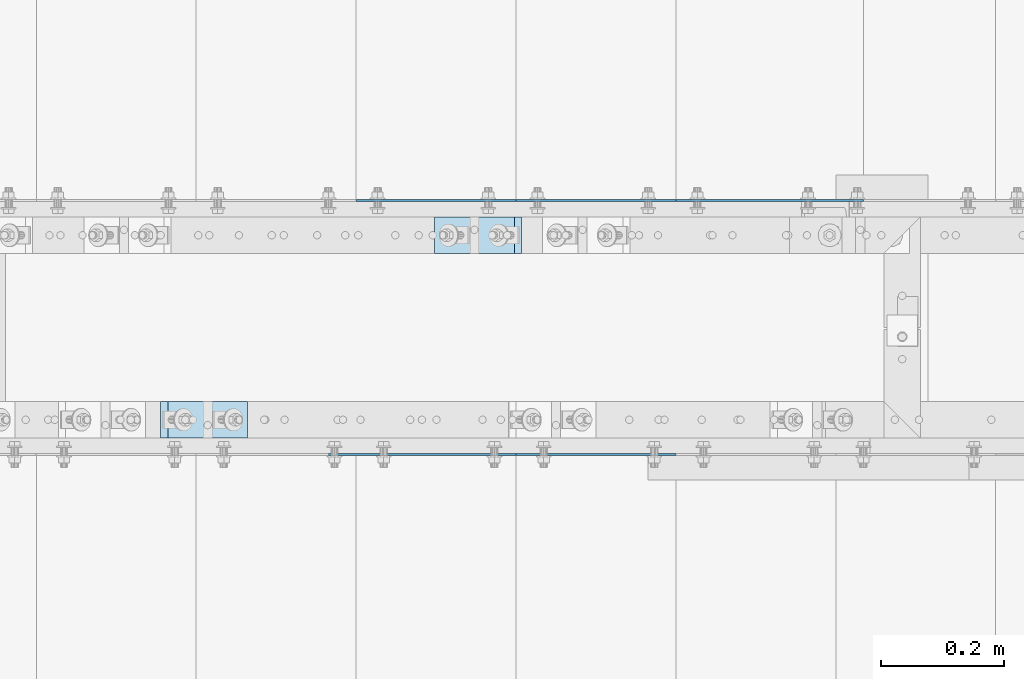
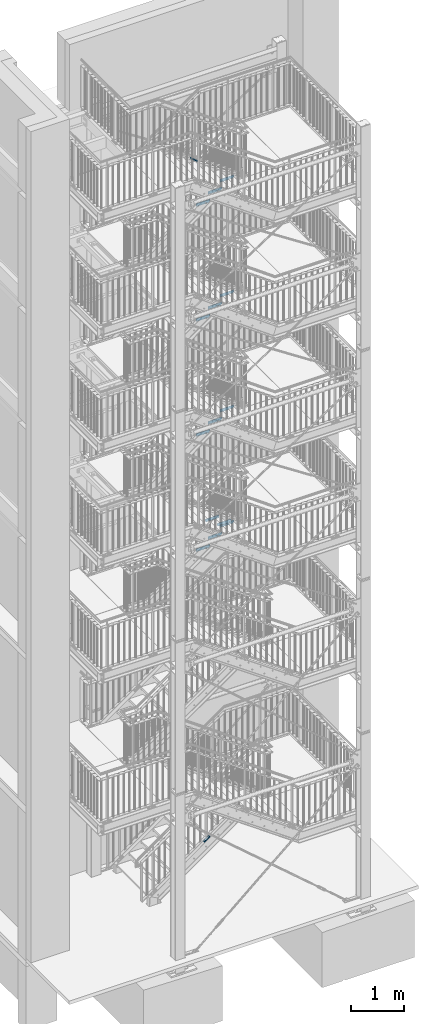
# One storey, part 176 of 831: 16 plates, 32 openings.
"""IFC2X3 building model written with IfcOpenShell, lengths in millimetres."""

from ifc_helpers import new_model, entity, si_unit, converted_unit, point, frame, frame_2d, origin, origin_with_axes, origin_2d_with_axis, place, context, project, spatial, polyline, circle_curve, line_curve, trimmed, segment, composite_curve, circle, outline, extrude, material, layer, layer_set, element, save


model = new_model("IFC2X3")

# Units and contexts
model_context = context("Model", 3, precision=1e-09, world=origin_with_axes())
ifc_project = project(units=[si_unit("LENGTHUNIT", "METRE", prefix="MILLI"), si_unit("AREAUNIT", "SQUARE_METRE"), si_unit("VOLUMEUNIT", "CUBIC_METRE"), converted_unit("PLANEANGLEUNIT", "DEGREE", entity("IfcPlaneAngleMeasure", 0.01745329), si_unit("PLANEANGLEUNIT", "RADIAN"), dimensions=[0, 0, 0, 0, 0, 0, 0])], contexts=[model_context])

# Site, building, storey
site_placement = place(None, origin_with_axes())
site = spatial("IfcSite", under=ifc_project, at=site_placement, Name="Site", CompositionType="ELEMENT")
building_placement = place(site_placement, origin_with_axes())
building = spatial("IfcBuilding", under=site, at=building_placement, Name="Struktur 1", CompositionType="ELEMENT")
storey_placement = place(building_placement, origin_with_axes())
storey = spatial("IfcBuildingStorey", under=building, at=storey_placement, Name="Default Storey", CompositionType="ELEMENT", Elevation=0.0)

# Plate, openings
ifc_material = material(Name="S235JR")
ifc_layer_1 = layer(ifc_material, 20.0)
ifc_layer_set_1 = layer_set([ifc_layer_1], Name="S235JR")
plate_1_placement = place(None, frame((6545.888810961, 6121.736971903, 1487.163948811), z_axis=(-0.579973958, 0.0, 0.814635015), x_axis=(-0.814635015, 0.0, -0.579973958)))
plate_1 = element("IfcPlate", 1, at=plate_1_placement, inside=storey, material=ifc_layer_set_1, Name="Plate#501", ObjectType="Plate#501", context=model_context, shape_type="SweptSolid", body=[
    extrude(outline(polyline([(0.0, 0.0), (160.0, 0.0), (160.0, 60.0), (0.0, 60.0), (0.0, 0.0)])), origin_with_axes(), (0.0, 0.0, 1.0), 20.0),
])
opening_1_placement = place(plate_1_placement, frame((38.0, 37.001, 20.5), z_axis=(0.0, 0.0, 1.0), x_axis=(-1.0, 0.0, 0.0)))
element("IfcOpeningElement", 2, at=opening_1_placement, cuts=plate_1, ObjectType="Opening", context=model_context, shape_type="SweptSolid", body=[
    extrude(outline(composite_curve([segment(trimmed(line_curve((0.0, 0.0), (1.0, 0.0), 16.0), [point((0.0, 0.0))], [point((16.0, 0.0))], True, "CARTESIAN"), True, "CONTINUOUS"), segment(trimmed(circle_curve(frame_2d((16.0, 7.001), x_axis=(1.0, 0.0)), 7.001), [point((16.0, 0.0))], [point((16.0, 14.002))], True, "CARTESIAN"), True, "CONTINUOUS"), segment(trimmed(line_curve((16.0, 14.002), (-1.0, 0.0), 16.0), [point((16.0, 14.002))], [point((0.0, 14.002))], True, "CARTESIAN"), True, "CONTINUOUS"), segment(trimmed(circle_curve(frame_2d((0.0, 7.001), x_axis=(1.0, 0.0)), 7.001), [point((0.0, 14.002))], [point((0.0, 0.0))], True, "CARTESIAN"), True, "CONTINUOUS")], self_intersect=False)), origin(), (0.0, 0.0, -1.0), 21.0),
])
opening_2_placement = place(plate_1_placement, frame((138.0, 37.001, 20.5), z_axis=(0.0, 0.0, 1.0), x_axis=(-1.0, 0.0, 0.0)))
element("IfcOpeningElement", 3, at=opening_2_placement, cuts=plate_1, ObjectType="Opening", context=model_context, shape_type="SweptSolid", body=[
    extrude(outline(composite_curve([segment(trimmed(line_curve((0.0, 0.0), (1.0, 0.0), 16.0), [point((0.0, 0.0))], [point((16.0, 0.0))], True, "CARTESIAN"), True, "CONTINUOUS"), segment(trimmed(circle_curve(frame_2d((16.0, 7.001), x_axis=(1.0, 0.0)), 7.001), [point((16.0, 0.0))], [point((16.0, 14.002))], True, "CARTESIAN"), True, "CONTINUOUS"), segment(trimmed(line_curve((16.0, 14.002), (-1.0, 0.0), 16.0), [point((16.0, 14.002))], [point((0.0, 14.002))], True, "CARTESIAN"), True, "CONTINUOUS"), segment(trimmed(circle_curve(frame_2d((0.0, 7.001), x_axis=(1.0, 0.0)), 7.001), [point((0.0, 14.002))], [point((0.0, 0.0))], True, "CARTESIAN"), True, "CONTINUOUS")], self_intersect=False)), origin(), (0.0, 0.0, -1.0), 21.0),
])

ifc_layer_2 = layer(ifc_material, 3.0)
ifc_layer_set_2 = layer_set([ifc_layer_2], Name="S235JR")
plate_2_placement = place(None, frame((6796.713402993, 5733.736971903, 8864.0), z_axis=(0.0, 1.0, 0.0), x_axis=(0.0, 0.0, -1.0)))
plate_2 = element("IfcPlate", 4, at=plate_2_placement, inside=storey, material=ifc_layer_set_2, Name="Grate_Step#3", ObjectType="Grate_Step#3", context=model_context, shape_type="SweptSolid", body=[
    extrude(outline(polyline([(0.0, 0.0), (70.0, 0.0), (70.0, 275.0), (40.0, 305.0), (0.0, 305.0), (0.0, 0.0)])), origin_with_axes(), (0.0, 0.0, 1.0), 3.0),
])
opening_3_placement = place(plate_2_placement, frame((55.0, 35.0, -0.5), z_axis=(0.0, 0.0, 1.0), x_axis=(0.0, 1.0, 0.0)))
element("IfcOpeningElement", 5, at=opening_3_placement, cuts=plate_2, ObjectType="Opening", context=model_context, shape_type="SweptSolid", body=[
    extrude(circle(Radius=7.001, at=origin_2d_with_axis()), origin(), (0.0, 0.0, 1.0), 4.0),
])
opening_4_placement = place(plate_2_placement, frame((55.0, 215.0, -0.5), z_axis=(0.0, 0.0, 1.0), x_axis=(0.0, 1.0, 0.0)))
element("IfcOpeningElement", 6, at=opening_4_placement, cuts=plate_2, ObjectType="Opening", context=model_context, shape_type="SweptSolid", body=[
    extrude(outline(composite_curve([segment(trimmed(line_curve((-9.5, -7.001), (1.0, 0.0), 19.0), [point((-9.5, -7.001))], [point((9.5, -7.001))], True, "CARTESIAN"), True, "CONTINUOUS"), segment(trimmed(circle_curve(frame_2d((9.5, 0.0), x_axis=(1.0, 0.0)), 7.001), [point((9.5, -7.001))], [point((9.5, 7.001))], True, "CARTESIAN"), True, "CONTINUOUS"), segment(trimmed(line_curve((9.5, 7.001), (-1.0, 0.0), 19.0), [point((9.5, 7.001))], [point((-9.5, 7.001))], True, "CARTESIAN"), True, "CONTINUOUS"), segment(trimmed(circle_curve(frame_2d((-9.5, 0.0), x_axis=(1.0, 0.0)), 7.001), [point((-9.5, 7.001))], [point((-9.5, -7.001))], True, "CARTESIAN"), True, "CONTINUOUS")], self_intersect=False)), origin(), (0.0, 0.0, 1.0), 4.0),
])

plate_3_placement = place(None, frame((6536.713402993, 5733.736971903, 9052.0), z_axis=(0.0, 1.0, 0.0), x_axis=(0.0, 0.0, -1.0)))
plate_3 = element("IfcPlate", 7, at=plate_3_placement, inside=storey, material=ifc_layer_set_2, Name="Grate_Step#10", ObjectType="Grate_Step#10", context=model_context, shape_type="SweptSolid", body=[
    extrude(outline(polyline([(0.0, 0.0), (70.0, 0.0), (70.0, 275.0), (40.0, 305.0), (0.0, 305.0), (0.0, 0.0)])), origin_with_axes(), (0.0, 0.0, 1.0), 3.0),
])
opening_5_placement = place(plate_3_placement, frame((55.0, 35.0, -0.5), z_axis=(0.0, 0.0, 1.0), x_axis=(0.0, 1.0, 0.0)))
element("IfcOpeningElement", 8, at=opening_5_placement, cuts=plate_3, ObjectType="Opening", context=model_context, shape_type="SweptSolid", body=[
    extrude(circle(Radius=7.001, at=origin_2d_with_axis()), origin(), (0.0, 0.0, 1.0), 4.0),
])
opening_6_placement = place(plate_3_placement, frame((55.0, 215.0, -0.5), z_axis=(0.0, 0.0, 1.0), x_axis=(0.0, 1.0, 0.0)))
element("IfcOpeningElement", 9, at=opening_6_placement, cuts=plate_3, ObjectType="Opening", context=model_context, shape_type="SweptSolid", body=[
    extrude(outline(composite_curve([segment(trimmed(line_curve((-9.5, -7.001), (1.0, 0.0), 19.0), [point((-9.5, -7.001))], [point((9.5, -7.001))], True, "CARTESIAN"), True, "CONTINUOUS"), segment(trimmed(circle_curve(frame_2d((9.5, 0.0), x_axis=(1.0, 0.0)), 7.001), [point((9.5, -7.001))], [point((9.5, 7.001))], True, "CARTESIAN"), True, "CONTINUOUS"), segment(trimmed(line_curve((9.5, 7.001), (-1.0, 0.0), 19.0), [point((9.5, 7.001))], [point((-9.5, 7.001))], True, "CARTESIAN"), True, "CONTINUOUS"), segment(trimmed(circle_curve(frame_2d((-9.5, 0.0), x_axis=(1.0, 0.0)), 7.001), [point((-9.5, 7.001))], [point((-9.5, -7.001))], True, "CARTESIAN"), True, "CONTINUOUS")], self_intersect=False)), origin(), (0.0, 0.0, 1.0), 4.0),
])

plate_4_placement = place(None, frame((6276.713402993, 6149.736971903, 10742.571429), z_axis=(0.0, -1.0, 0.0), x_axis=(0.0, 0.0, -1.0)))
plate_4 = element("IfcPlate", 10, at=plate_4_placement, inside=storey, material=ifc_layer_set_2, Name="Grate_Step#24", ObjectType="Grate_Step#24", context=model_context, shape_type="SweptSolid", body=[
    extrude(outline(polyline([(0.0, 0.0), (70.0, 0.0), (70.0, 275.0), (40.0, 305.0), (0.0, 305.0), (0.0, 0.0)])), origin_with_axes(), (0.0, 0.0, 1.0), 3.0),
])
opening_7_placement = place(plate_4_placement, frame((55.0, 215.0, -0.5), z_axis=(0.0, 0.0, 1.0), x_axis=(0.0, 1.0, 0.0)))
element("IfcOpeningElement", 11, at=opening_7_placement, cuts=plate_4, ObjectType="Opening", context=model_context, shape_type="SweptSolid", body=[
    extrude(outline(composite_curve([segment(trimmed(line_curve((-9.5, -7.001), (1.0, 0.0), 19.0), [point((-9.5, -7.001))], [point((9.5, -7.001))], True, "CARTESIAN"), True, "CONTINUOUS"), segment(trimmed(circle_curve(frame_2d((9.5, 0.0), x_axis=(1.0, 0.0)), 7.001), [point((9.5, -7.001))], [point((9.5, 7.001))], True, "CARTESIAN"), True, "CONTINUOUS"), segment(trimmed(line_curve((9.5, 7.001), (-1.0, 0.0), 19.0), [point((9.5, 7.001))], [point((-9.5, 7.001))], True, "CARTESIAN"), True, "CONTINUOUS"), segment(trimmed(circle_curve(frame_2d((-9.5, 0.0), x_axis=(1.0, 0.0)), 7.001), [point((-9.5, 7.001))], [point((-9.5, -7.001))], True, "CARTESIAN"), True, "CONTINUOUS")], self_intersect=False)), origin(), (0.0, 0.0, 1.0), 4.0),
])
opening_8_placement = place(plate_4_placement, frame((55.0, 35.0, -0.5), z_axis=(0.0, 0.0, 1.0), x_axis=(0.0, 1.0, 0.0)))
element("IfcOpeningElement", 12, at=opening_8_placement, cuts=plate_4, ObjectType="Opening", context=model_context, shape_type="SweptSolid", body=[
    extrude(circle(Radius=7.001, at=origin_2d_with_axis()), origin(), (0.0, 0.0, 1.0), 4.0),
])

plate_5_placement = place(None, frame((6536.713402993, 6149.736971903, 10930.2142861), z_axis=(0.0, -1.0, 0.0), x_axis=(0.0, 0.0, -1.0)))
plate_5 = element("IfcPlate", 13, at=plate_5_placement, inside=storey, material=ifc_layer_set_2, Name="Grate_Step#31", ObjectType="Grate_Step#31", context=model_context, shape_type="SweptSolid", body=[
    extrude(outline(polyline([(0.0, 0.0), (70.0, 0.0), (70.0, 275.0), (40.0, 305.0), (0.0, 305.0), (0.0, 0.0)])), origin_with_axes(), (0.0, 0.0, 1.0), 3.0),
])
opening_9_placement = place(plate_5_placement, frame((55.0, 35.0, -0.5), z_axis=(0.0, 0.0, 1.0), x_axis=(0.0, 1.0, 0.0)))
element("IfcOpeningElement", 14, at=opening_9_placement, cuts=plate_5, ObjectType="Opening", context=model_context, shape_type="SweptSolid", body=[
    extrude(circle(Radius=7.001, at=origin_2d_with_axis()), origin(), (0.0, 0.0, 1.0), 4.0),
])
opening_10_placement = place(plate_5_placement, frame((55.0, 215.0, -0.5), z_axis=(0.0, 0.0, 1.0), x_axis=(0.0, 1.0, 0.0)))
element("IfcOpeningElement", 15, at=opening_10_placement, cuts=plate_5, ObjectType="Opening", context=model_context, shape_type="SweptSolid", body=[
    extrude(outline(composite_curve([segment(trimmed(line_curve((-9.5, -7.001), (1.0, 0.0), 19.0), [point((-9.5, -7.001))], [point((9.5, -7.001))], True, "CARTESIAN"), True, "CONTINUOUS"), segment(trimmed(circle_curve(frame_2d((9.5, 0.0), x_axis=(1.0, 0.0)), 7.001), [point((9.5, -7.001))], [point((9.5, 7.001))], True, "CARTESIAN"), True, "CONTINUOUS"), segment(trimmed(line_curve((9.5, 7.001), (-1.0, 0.0), 19.0), [point((9.5, 7.001))], [point((-9.5, 7.001))], True, "CARTESIAN"), True, "CONTINUOUS"), segment(trimmed(circle_curve(frame_2d((-9.5, 0.0), x_axis=(1.0, 0.0)), 7.001), [point((-9.5, 7.001))], [point((-9.5, -7.001))], True, "CARTESIAN"), True, "CONTINUOUS")], self_intersect=False)), origin(), (0.0, 0.0, 1.0), 4.0),
])

plate_6_placement = place(None, frame((6796.713402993, 6149.736971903, 11117.8571432), z_axis=(0.0, -1.0, 0.0), x_axis=(0.0, 0.0, -1.0)))
plate_6 = element("IfcPlate", 16, at=plate_6_placement, inside=storey, material=ifc_layer_set_2, Name="Grate_Step#38", ObjectType="Grate_Step#38", context=model_context, shape_type="SweptSolid", body=[
    extrude(outline(polyline([(0.0, 0.0), (70.0, 0.0), (70.0, 275.0), (40.0, 305.0), (0.0, 305.0), (0.0, 0.0)])), origin_with_axes(), (0.0, 0.0, 1.0), 3.0),
])
opening_11_placement = place(plate_6_placement, frame((55.0, 35.0, -0.5), z_axis=(0.0, 0.0, 1.0), x_axis=(0.0, 1.0, 0.0)))
element("IfcOpeningElement", 17, at=opening_11_placement, cuts=plate_6, ObjectType="Opening", context=model_context, shape_type="SweptSolid", body=[
    extrude(circle(Radius=7.001, at=origin_2d_with_axis()), origin(), (0.0, 0.0, 1.0), 4.0),
])
opening_12_placement = place(plate_6_placement, frame((55.0, 215.0, -0.5), z_axis=(0.0, 0.0, 1.0), x_axis=(0.0, 1.0, 0.0)))
element("IfcOpeningElement", 18, at=opening_12_placement, cuts=plate_6, ObjectType="Opening", context=model_context, shape_type="SweptSolid", body=[
    extrude(outline(composite_curve([segment(trimmed(line_curve((-9.5, -7.001), (1.0, 0.0), 19.0), [point((-9.5, -7.001))], [point((9.5, -7.001))], True, "CARTESIAN"), True, "CONTINUOUS"), segment(trimmed(circle_curve(frame_2d((9.5, 0.0), x_axis=(1.0, 0.0)), 7.001), [point((9.5, -7.001))], [point((9.5, 7.001))], True, "CARTESIAN"), True, "CONTINUOUS"), segment(trimmed(line_curve((9.5, 7.001), (-1.0, 0.0), 19.0), [point((9.5, 7.001))], [point((-9.5, 7.001))], True, "CARTESIAN"), True, "CONTINUOUS"), segment(trimmed(circle_curve(frame_2d((-9.5, 0.0), x_axis=(1.0, 0.0)), 7.001), [point((-9.5, 7.001))], [point((-9.5, -7.001))], True, "CARTESIAN"), True, "CONTINUOUS")], self_intersect=False)), origin(), (0.0, 0.0, 1.0), 4.0),
])

plate_7_placement = place(None, frame((6276.713402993, 6149.736971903, 8112.0), z_axis=(0.0, -1.0, 0.0), x_axis=(0.0, 0.0, -1.0)))
plate_7 = element("IfcPlate", 19, at=plate_7_placement, inside=storey, material=ifc_layer_set_2, Name="Grate_Step#24", ObjectType="Grate_Step#24", context=model_context, shape_type="SweptSolid", body=[
    extrude(outline(polyline([(0.0, 0.0), (70.0, 0.0), (70.0, 275.0), (40.0, 305.0), (0.0, 305.0), (0.0, 0.0)])), origin_with_axes(), (0.0, 0.0, 1.0), 3.0),
])
opening_13_placement = place(plate_7_placement, frame((55.0, 35.0, -0.5), z_axis=(0.0, 0.0, 1.0), x_axis=(0.0, 1.0, 0.0)))
element("IfcOpeningElement", 20, at=opening_13_placement, cuts=plate_7, ObjectType="Opening", context=model_context, shape_type="SweptSolid", body=[
    extrude(circle(Radius=7.001, at=origin_2d_with_axis()), origin(), (0.0, 0.0, 1.0), 4.0),
])
opening_14_placement = place(plate_7_placement, frame((55.0, 215.0, -0.5), z_axis=(0.0, 0.0, 1.0), x_axis=(0.0, 1.0, 0.0)))
element("IfcOpeningElement", 21, at=opening_14_placement, cuts=plate_7, ObjectType="Opening", context=model_context, shape_type="SweptSolid", body=[
    extrude(outline(composite_curve([segment(trimmed(line_curve((-9.5, -7.001), (1.0, 0.0), 19.0), [point((-9.5, -7.001))], [point((9.5, -7.001))], True, "CARTESIAN"), True, "CONTINUOUS"), segment(trimmed(circle_curve(frame_2d((9.5, 0.0), x_axis=(1.0, 0.0)), 7.001), [point((9.5, -7.001))], [point((9.5, 7.001))], True, "CARTESIAN"), True, "CONTINUOUS"), segment(trimmed(line_curve((9.5, 7.001), (-1.0, 0.0), 19.0), [point((9.5, 7.001))], [point((-9.5, 7.001))], True, "CARTESIAN"), True, "CONTINUOUS"), segment(trimmed(circle_curve(frame_2d((-9.5, 0.0), x_axis=(1.0, 0.0)), 7.001), [point((-9.5, 7.001))], [point((-9.5, -7.001))], True, "CARTESIAN"), True, "CONTINUOUS")], self_intersect=False)), origin(), (0.0, 0.0, 1.0), 4.0),
])

plate_8_placement = place(None, frame((6536.713402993, 6149.736971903, 8300.0), z_axis=(0.0, -1.0, 0.0), x_axis=(0.0, 0.0, -1.0)))
plate_8 = element("IfcPlate", 22, at=plate_8_placement, inside=storey, material=ifc_layer_set_2, Name="Grate_Step#31", ObjectType="Grate_Step#31", context=model_context, shape_type="SweptSolid", body=[
    extrude(outline(polyline([(0.0, 0.0), (70.0, 0.0), (70.0, 275.0), (40.0, 305.0), (0.0, 305.0), (0.0, 0.0)])), origin_with_axes(), (0.0, 0.0, 1.0), 3.0),
])
opening_15_placement = place(plate_8_placement, frame((55.0, 215.0, -0.5), z_axis=(0.0, 0.0, 1.0), x_axis=(0.0, 1.0, 0.0)))
element("IfcOpeningElement", 23, at=opening_15_placement, cuts=plate_8, ObjectType="Opening", context=model_context, shape_type="SweptSolid", body=[
    extrude(outline(composite_curve([segment(trimmed(line_curve((-9.5, -7.001), (1.0, 0.0), 19.0), [point((-9.5, -7.001))], [point((9.5, -7.001))], True, "CARTESIAN"), True, "CONTINUOUS"), segment(trimmed(circle_curve(frame_2d((9.5, 0.0), x_axis=(1.0, 0.0)), 7.001), [point((9.5, -7.001))], [point((9.5, 7.001))], True, "CARTESIAN"), True, "CONTINUOUS"), segment(trimmed(line_curve((9.5, 7.001), (-1.0, 0.0), 19.0), [point((9.5, 7.001))], [point((-9.5, 7.001))], True, "CARTESIAN"), True, "CONTINUOUS"), segment(trimmed(circle_curve(frame_2d((-9.5, 0.0), x_axis=(1.0, 0.0)), 7.001), [point((-9.5, 7.001))], [point((-9.5, -7.001))], True, "CARTESIAN"), True, "CONTINUOUS")], self_intersect=False)), origin(), (0.0, 0.0, 1.0), 4.0),
])
opening_16_placement = place(plate_8_placement, frame((55.0, 35.0, -0.5), z_axis=(0.0, 0.0, 1.0), x_axis=(0.0, 1.0, 0.0)))
element("IfcOpeningElement", 24, at=opening_16_placement, cuts=plate_8, ObjectType="Opening", context=model_context, shape_type="SweptSolid", body=[
    extrude(circle(Radius=7.001, at=origin_2d_with_axis()), origin(), (0.0, 0.0, 1.0), 4.0),
])

plate_9_placement = place(None, frame((6796.713402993, 6149.736971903, 8488.0), z_axis=(0.0, -1.0, 0.0), x_axis=(0.0, 0.0, -1.0)))
plate_9 = element("IfcPlate", 25, at=plate_9_placement, inside=storey, material=ifc_layer_set_2, Name="Grate_Step#38", ObjectType="Grate_Step#38", context=model_context, shape_type="SweptSolid", body=[
    extrude(outline(polyline([(0.0, 0.0), (70.0, 0.0), (70.0, 275.0), (40.0, 305.0), (0.0, 305.0), (0.0, 0.0)])), origin_with_axes(), (0.0, 0.0, 1.0), 3.0),
])
opening_17_placement = place(plate_9_placement, frame((55.0, 215.0, -0.5), z_axis=(0.0, 0.0, 1.0), x_axis=(0.0, 1.0, 0.0)))
element("IfcOpeningElement", 26, at=opening_17_placement, cuts=plate_9, ObjectType="Opening", context=model_context, shape_type="SweptSolid", body=[
    extrude(outline(composite_curve([segment(trimmed(line_curve((-9.5, -7.001), (1.0, 0.0), 19.0), [point((-9.5, -7.001))], [point((9.5, -7.001))], True, "CARTESIAN"), True, "CONTINUOUS"), segment(trimmed(circle_curve(frame_2d((9.5, 0.0), x_axis=(1.0, 0.0)), 7.001), [point((9.5, -7.001))], [point((9.5, 7.001))], True, "CARTESIAN"), True, "CONTINUOUS"), segment(trimmed(line_curve((9.5, 7.001), (-1.0, 0.0), 19.0), [point((9.5, 7.001))], [point((-9.5, 7.001))], True, "CARTESIAN"), True, "CONTINUOUS"), segment(trimmed(circle_curve(frame_2d((-9.5, 0.0), x_axis=(1.0, 0.0)), 7.001), [point((-9.5, 7.001))], [point((-9.5, -7.001))], True, "CARTESIAN"), True, "CONTINUOUS")], self_intersect=False)), origin(), (0.0, 0.0, 1.0), 4.0),
])
opening_18_placement = place(plate_9_placement, frame((55.0, 35.0, -0.5), z_axis=(0.0, 0.0, 1.0), x_axis=(0.0, 1.0, 0.0)))
element("IfcOpeningElement", 27, at=opening_18_placement, cuts=plate_9, ObjectType="Opening", context=model_context, shape_type="SweptSolid", body=[
    extrude(circle(Radius=7.001, at=origin_2d_with_axis()), origin(), (0.0, 0.0, 1.0), 4.0),
])

plate_10_placement = place(None, frame((6276.713402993, 6149.736971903, 13371.857143), z_axis=(0.0, -1.0, 0.0), x_axis=(0.0, 0.0, -1.0)))
plate_10 = element("IfcPlate", 28, at=plate_10_placement, inside=storey, material=ifc_layer_set_2, Name="Grate_Step#24", ObjectType="Grate_Step#24", context=model_context, shape_type="SweptSolid", body=[
    extrude(outline(polyline([(0.0, 0.0), (70.0, 0.0), (70.0, 275.0), (40.0, 305.0), (0.0, 305.0), (0.0, 0.0)])), origin_with_axes(), (0.0, 0.0, 1.0), 3.0),
])
opening_19_placement = place(plate_10_placement, frame((55.0, 35.0, -0.5), z_axis=(0.0, 0.0, 1.0), x_axis=(0.0, 1.0, 0.0)))
element("IfcOpeningElement", 29, at=opening_19_placement, cuts=plate_10, ObjectType="Opening", context=model_context, shape_type="SweptSolid", body=[
    extrude(circle(Radius=7.001, at=origin_2d_with_axis()), origin(), (0.0, 0.0, 1.0), 4.0),
])
opening_20_placement = place(plate_10_placement, frame((55.0, 215.0, -0.5), z_axis=(0.0, 0.0, 1.0), x_axis=(0.0, 1.0, 0.0)))
element("IfcOpeningElement", 30, at=opening_20_placement, cuts=plate_10, ObjectType="Opening", context=model_context, shape_type="SweptSolid", body=[
    extrude(outline(composite_curve([segment(trimmed(line_curve((-9.5, -7.001), (1.0, 0.0), 19.0), [point((-9.5, -7.001))], [point((9.5, -7.001))], True, "CARTESIAN"), True, "CONTINUOUS"), segment(trimmed(circle_curve(frame_2d((9.5, 0.0), x_axis=(1.0, 0.0)), 7.001), [point((9.5, -7.001))], [point((9.5, 7.001))], True, "CARTESIAN"), True, "CONTINUOUS"), segment(trimmed(line_curve((9.5, 7.001), (-1.0, 0.0), 19.0), [point((9.5, 7.001))], [point((-9.5, 7.001))], True, "CARTESIAN"), True, "CONTINUOUS"), segment(trimmed(circle_curve(frame_2d((-9.5, 0.0), x_axis=(1.0, 0.0)), 7.001), [point((-9.5, 7.001))], [point((-9.5, -7.001))], True, "CARTESIAN"), True, "CONTINUOUS")], self_intersect=False)), origin(), (0.0, 0.0, 1.0), 4.0),
])

plate_11_placement = place(None, frame((6536.713402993, 6149.736971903, 13560.0714287), z_axis=(0.0, -1.0, 0.0), x_axis=(0.0, 0.0, -1.0)))
plate_11 = element("IfcPlate", 31, at=plate_11_placement, inside=storey, material=ifc_layer_set_2, Name="Grate_Step#31", ObjectType="Grate_Step#31", context=model_context, shape_type="SweptSolid", body=[
    extrude(outline(polyline([(0.0, 0.0), (70.0, 0.0), (70.0, 275.0), (40.0, 305.0), (0.0, 305.0), (0.0, 0.0)])), origin_with_axes(), (0.0, 0.0, 1.0), 3.0),
])
opening_21_placement = place(plate_11_placement, frame((55.0, 35.0, -0.5), z_axis=(0.0, 0.0, 1.0), x_axis=(0.0, 1.0, 0.0)))
element("IfcOpeningElement", 32, at=opening_21_placement, cuts=plate_11, ObjectType="Opening", context=model_context, shape_type="SweptSolid", body=[
    extrude(circle(Radius=7.001, at=origin_2d_with_axis()), origin(), (0.0, 0.0, 1.0), 4.0),
])
opening_22_placement = place(plate_11_placement, frame((55.0, 215.0, -0.5), z_axis=(0.0, 0.0, 1.0), x_axis=(0.0, 1.0, 0.0)))
element("IfcOpeningElement", 33, at=opening_22_placement, cuts=plate_11, ObjectType="Opening", context=model_context, shape_type="SweptSolid", body=[
    extrude(outline(composite_curve([segment(trimmed(line_curve((-9.5, -7.001), (1.0, 0.0), 19.0), [point((-9.5, -7.001))], [point((9.5, -7.001))], True, "CARTESIAN"), True, "CONTINUOUS"), segment(trimmed(circle_curve(frame_2d((9.5, 0.0), x_axis=(1.0, 0.0)), 7.001), [point((9.5, -7.001))], [point((9.5, 7.001))], True, "CARTESIAN"), True, "CONTINUOUS"), segment(trimmed(line_curve((9.5, 7.001), (-1.0, 0.0), 19.0), [point((9.5, 7.001))], [point((-9.5, 7.001))], True, "CARTESIAN"), True, "CONTINUOUS"), segment(trimmed(circle_curve(frame_2d((-9.5, 0.0), x_axis=(1.0, 0.0)), 7.001), [point((-9.5, 7.001))], [point((-9.5, -7.001))], True, "CARTESIAN"), True, "CONTINUOUS")], self_intersect=False)), origin(), (0.0, 0.0, 1.0), 4.0),
])

plate_12_placement = place(None, frame((6796.713402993, 6149.736971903, 13748.2857144), z_axis=(0.0, -1.0, 0.0), x_axis=(0.0, 0.0, -1.0)))
plate_12 = element("IfcPlate", 34, at=plate_12_placement, inside=storey, material=ifc_layer_set_2, Name="Grate_Step#38", ObjectType="Grate_Step#38", context=model_context, shape_type="SweptSolid", body=[
    extrude(outline(polyline([(0.0, 0.0), (70.0, 0.0), (70.0, 275.0), (40.0, 305.0), (0.0, 305.0), (0.0, 0.0)])), origin_with_axes(), (0.0, 0.0, 1.0), 3.0),
])
opening_23_placement = place(plate_12_placement, frame((55.0, 35.0, -0.5), z_axis=(0.0, 0.0, 1.0), x_axis=(0.0, 1.0, 0.0)))
element("IfcOpeningElement", 35, at=opening_23_placement, cuts=plate_12, ObjectType="Opening", context=model_context, shape_type="SweptSolid", body=[
    extrude(circle(Radius=7.001, at=origin_2d_with_axis()), origin(), (0.0, 0.0, 1.0), 4.0),
])
opening_24_placement = place(plate_12_placement, frame((55.0, 215.0, -0.5), z_axis=(0.0, 0.0, 1.0), x_axis=(0.0, 1.0, 0.0)))
element("IfcOpeningElement", 36, at=opening_24_placement, cuts=plate_12, ObjectType="Opening", context=model_context, shape_type="SweptSolid", body=[
    extrude(outline(composite_curve([segment(trimmed(line_curve((-9.5, -7.001), (1.0, 0.0), 19.0), [point((-9.5, -7.001))], [point((9.5, -7.001))], True, "CARTESIAN"), True, "CONTINUOUS"), segment(trimmed(circle_curve(frame_2d((9.5, 0.0), x_axis=(1.0, 0.0)), 7.001), [point((9.5, -7.001))], [point((9.5, 7.001))], True, "CARTESIAN"), True, "CONTINUOUS"), segment(trimmed(line_curve((9.5, 7.001), (-1.0, 0.0), 19.0), [point((9.5, 7.001))], [point((-9.5, 7.001))], True, "CARTESIAN"), True, "CONTINUOUS"), segment(trimmed(circle_curve(frame_2d((-9.5, 0.0), x_axis=(1.0, 0.0)), 7.001), [point((-9.5, 7.001))], [point((-9.5, -7.001))], True, "CARTESIAN"), True, "CONTINUOUS")], self_intersect=False)), origin(), (0.0, 0.0, 1.0), 4.0),
])

plate_13_placement = place(None, frame((6276.713402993, 6149.736971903, 16002.571429), z_axis=(0.0, -1.0, 0.0), x_axis=(0.0, 0.0, -1.0)))
plate_13 = element("IfcPlate", 37, at=plate_13_placement, inside=storey, material=ifc_layer_set_2, Name="Grate_Step#24", ObjectType="Grate_Step#24", context=model_context, shape_type="SweptSolid", body=[
    extrude(outline(polyline([(0.0, 0.0), (70.0, 0.0), (70.0, 275.0), (40.0, 305.0), (0.0, 305.0), (0.0, 0.0)])), origin_with_axes(), (0.0, 0.0, 1.0), 3.0),
])
opening_25_placement = place(plate_13_placement, frame((55.0, 35.0, -0.5), z_axis=(0.0, 0.0, 1.0), x_axis=(0.0, 1.0, 0.0)))
element("IfcOpeningElement", 38, at=opening_25_placement, cuts=plate_13, ObjectType="Opening", context=model_context, shape_type="SweptSolid", body=[
    extrude(circle(Radius=7.001, at=origin_2d_with_axis()), origin(), (0.0, 0.0, 1.0), 4.0),
])
opening_26_placement = place(plate_13_placement, frame((55.0, 215.0, -0.5), z_axis=(0.0, 0.0, 1.0), x_axis=(0.0, 1.0, 0.0)))
element("IfcOpeningElement", 39, at=opening_26_placement, cuts=plate_13, ObjectType="Opening", context=model_context, shape_type="SweptSolid", body=[
    extrude(outline(composite_curve([segment(trimmed(line_curve((-9.5, -7.001), (1.0, 0.0), 19.0), [point((-9.5, -7.001))], [point((9.5, -7.001))], True, "CARTESIAN"), True, "CONTINUOUS"), segment(trimmed(circle_curve(frame_2d((9.5, 0.0), x_axis=(1.0, 0.0)), 7.001), [point((9.5, -7.001))], [point((9.5, 7.001))], True, "CARTESIAN"), True, "CONTINUOUS"), segment(trimmed(line_curve((9.5, 7.001), (-1.0, 0.0), 19.0), [point((9.5, 7.001))], [point((-9.5, 7.001))], True, "CARTESIAN"), True, "CONTINUOUS"), segment(trimmed(circle_curve(frame_2d((-9.5, 0.0), x_axis=(1.0, 0.0)), 7.001), [point((-9.5, 7.001))], [point((-9.5, -7.001))], True, "CARTESIAN"), True, "CONTINUOUS")], self_intersect=False)), origin(), (0.0, 0.0, 1.0), 4.0),
])

plate_14_placement = place(None, frame((6536.713402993, 6149.736971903, 16189.7142861), z_axis=(0.0, -1.0, 0.0), x_axis=(0.0, 0.0, -1.0)))
plate_14 = element("IfcPlate", 40, at=plate_14_placement, inside=storey, material=ifc_layer_set_2, Name="Grate_Step#31", ObjectType="Grate_Step#31", context=model_context, shape_type="SweptSolid", body=[
    extrude(outline(polyline([(0.0, 0.0), (70.0, 0.0), (70.0, 275.0), (40.0, 305.0), (0.0, 305.0), (0.0, 0.0)])), origin_with_axes(), (0.0, 0.0, 1.0), 3.0),
])
opening_27_placement = place(plate_14_placement, frame((55.0, 35.0, -0.5), z_axis=(0.0, 0.0, 1.0), x_axis=(0.0, 1.0, 0.0)))
element("IfcOpeningElement", 41, at=opening_27_placement, cuts=plate_14, ObjectType="Opening", context=model_context, shape_type="SweptSolid", body=[
    extrude(circle(Radius=7.001, at=origin_2d_with_axis()), origin(), (0.0, 0.0, 1.0), 4.0),
])
opening_28_placement = place(plate_14_placement, frame((55.0, 215.0, -0.5), z_axis=(0.0, 0.0, 1.0), x_axis=(0.0, 1.0, 0.0)))
element("IfcOpeningElement", 42, at=opening_28_placement, cuts=plate_14, ObjectType="Opening", context=model_context, shape_type="SweptSolid", body=[
    extrude(outline(composite_curve([segment(trimmed(line_curve((-9.5, -7.001), (1.0, 0.0), 19.0), [point((-9.5, -7.001))], [point((9.5, -7.001))], True, "CARTESIAN"), True, "CONTINUOUS"), segment(trimmed(circle_curve(frame_2d((9.5, 0.0), x_axis=(1.0, 0.0)), 7.001), [point((9.5, -7.001))], [point((9.5, 7.001))], True, "CARTESIAN"), True, "CONTINUOUS"), segment(trimmed(line_curve((9.5, 7.001), (-1.0, 0.0), 19.0), [point((9.5, 7.001))], [point((-9.5, 7.001))], True, "CARTESIAN"), True, "CONTINUOUS"), segment(trimmed(circle_curve(frame_2d((-9.5, 0.0), x_axis=(1.0, 0.0)), 7.001), [point((-9.5, 7.001))], [point((-9.5, -7.001))], True, "CARTESIAN"), True, "CONTINUOUS")], self_intersect=False)), origin(), (0.0, 0.0, 1.0), 4.0),
])

plate_15_placement = place(None, frame((6796.713402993, 6149.736971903, 16376.8571432), z_axis=(0.0, -1.0, 0.0), x_axis=(0.0, 0.0, -1.0)))
plate_15 = element("IfcPlate", 43, at=plate_15_placement, inside=storey, material=ifc_layer_set_2, Name="Grate_Step#38", ObjectType="Grate_Step#38", context=model_context, shape_type="SweptSolid", body=[
    extrude(outline(polyline([(0.0, 0.0), (70.0, 0.0), (70.0, 275.0), (40.0, 305.0), (0.0, 305.0), (0.0, 0.0)])), origin_with_axes(), (0.0, 0.0, 1.0), 3.0),
])
opening_29_placement = place(plate_15_placement, frame((55.0, 215.0, -0.5), z_axis=(0.0, 0.0, 1.0), x_axis=(0.0, 1.0, 0.0)))
element("IfcOpeningElement", 44, at=opening_29_placement, cuts=plate_15, ObjectType="Opening", context=model_context, shape_type="SweptSolid", body=[
    extrude(outline(composite_curve([segment(trimmed(line_curve((-9.5, -7.001), (1.0, 0.0), 19.0), [point((-9.5, -7.001))], [point((9.5, -7.001))], True, "CARTESIAN"), True, "CONTINUOUS"), segment(trimmed(circle_curve(frame_2d((9.5, 0.0), x_axis=(1.0, 0.0)), 7.001), [point((9.5, -7.001))], [point((9.5, 7.001))], True, "CARTESIAN"), True, "CONTINUOUS"), segment(trimmed(line_curve((9.5, 7.001), (-1.0, 0.0), 19.0), [point((9.5, 7.001))], [point((-9.5, 7.001))], True, "CARTESIAN"), True, "CONTINUOUS"), segment(trimmed(circle_curve(frame_2d((-9.5, 0.0), x_axis=(1.0, 0.0)), 7.001), [point((-9.5, 7.001))], [point((-9.5, -7.001))], True, "CARTESIAN"), True, "CONTINUOUS")], self_intersect=False)), origin(), (0.0, 0.0, 1.0), 4.0),
])
opening_30_placement = place(plate_15_placement, frame((55.0, 35.0, -0.5), z_axis=(0.0, 0.0, 1.0), x_axis=(0.0, 1.0, 0.0)))
element("IfcOpeningElement", 45, at=opening_30_placement, cuts=plate_15, ObjectType="Opening", context=model_context, shape_type="SweptSolid", body=[
    extrude(circle(Radius=7.001, at=origin_2d_with_axis()), origin(), (0.0, 0.0, 1.0), 4.0),
])

plate_16_placement = place(None, frame((5958.833485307, 5761.736971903, 17354.232248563), z_axis=(0.584187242, 0.0, 0.811618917), x_axis=(0.811618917, 0.0, -0.584187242)))
plate_16 = element("IfcPlate", 46, at=plate_16_placement, inside=storey, material=ifc_layer_set_1, Name="Plate#501", ObjectType="Plate#501", context=model_context, shape_type="SweptSolid", body=[
    extrude(outline(polyline([(0.0, 0.0), (160.0, 0.0), (160.0, 60.0), (0.0, 60.0), (0.0, 0.0)])), origin_with_axes(), (0.0, 0.0, 1.0), 20.0),
])
opening_31_placement = place(plate_16_placement, frame((38.0, 37.001, 20.5), z_axis=(0.0, 0.0, 1.0), x_axis=(-1.0, 0.0, 0.0)))
element("IfcOpeningElement", 47, at=opening_31_placement, cuts=plate_16, ObjectType="Opening", context=model_context, shape_type="SweptSolid", body=[
    extrude(outline(composite_curve([segment(trimmed(line_curve((0.0, 0.0), (1.0, 0.0), 16.0), [point((0.0, 0.0))], [point((16.0, 0.0))], True, "CARTESIAN"), True, "CONTINUOUS"), segment(trimmed(circle_curve(frame_2d((16.0, 7.001), x_axis=(1.0, 0.0)), 7.001), [point((16.0, 0.0))], [point((16.0, 14.002))], True, "CARTESIAN"), True, "CONTINUOUS"), segment(trimmed(line_curve((16.0, 14.002), (-1.0, 0.0), 16.0), [point((16.0, 14.002))], [point((0.0, 14.002))], True, "CARTESIAN"), True, "CONTINUOUS"), segment(trimmed(circle_curve(frame_2d((0.0, 7.001), x_axis=(1.0, 0.0)), 7.001), [point((0.0, 14.002))], [point((0.0, 0.0))], True, "CARTESIAN"), True, "CONTINUOUS")], self_intersect=False)), origin(), (0.0, 0.0, -1.0), 21.0),
])
opening_32_placement = place(plate_16_placement, frame((138.0, 37.001, 20.5), z_axis=(0.0, 0.0, 1.0), x_axis=(-1.0, 0.0, 0.0)))
element("IfcOpeningElement", 48, at=opening_32_placement, cuts=plate_16, ObjectType="Opening", context=model_context, shape_type="SweptSolid", body=[
    extrude(outline(composite_curve([segment(trimmed(line_curve((0.0, 0.0), (1.0, 0.0), 16.0), [point((0.0, 0.0))], [point((16.0, 0.0))], True, "CARTESIAN"), True, "CONTINUOUS"), segment(trimmed(circle_curve(frame_2d((16.0, 7.001), x_axis=(1.0, 0.0)), 7.001), [point((16.0, 0.0))], [point((16.0, 14.002))], True, "CARTESIAN"), True, "CONTINUOUS"), segment(trimmed(line_curve((16.0, 14.002), (-1.0, 0.0), 16.0), [point((16.0, 14.002))], [point((0.0, 14.002))], True, "CARTESIAN"), True, "CONTINUOUS"), segment(trimmed(circle_curve(frame_2d((0.0, 7.001), x_axis=(1.0, 0.0)), 7.001), [point((0.0, 14.002))], [point((0.0, 0.0))], True, "CARTESIAN"), True, "CONTINUOUS")], self_intersect=False)), origin(), (0.0, 0.0, -1.0), 21.0),
])

save(model, "model.ifc")
